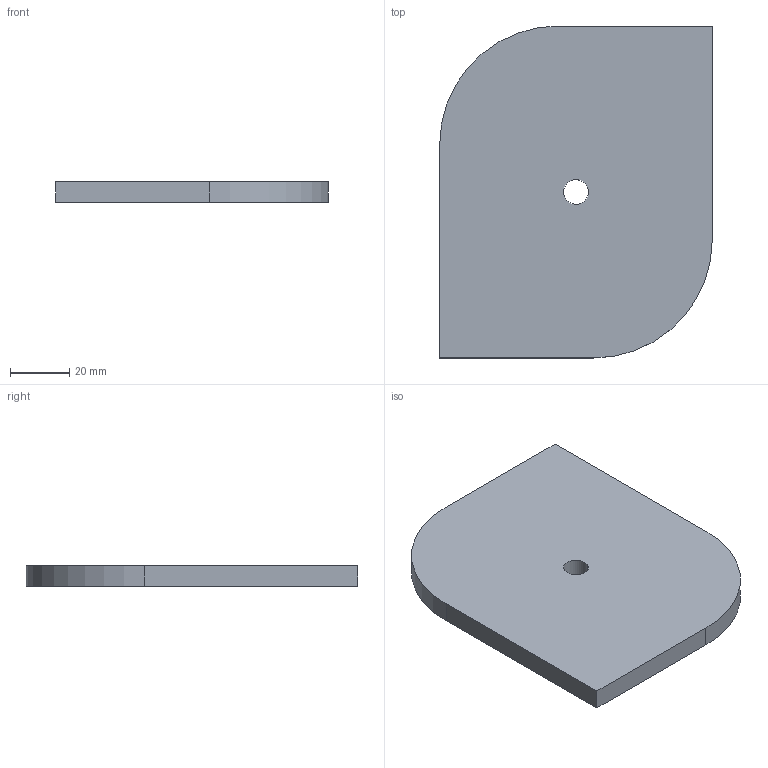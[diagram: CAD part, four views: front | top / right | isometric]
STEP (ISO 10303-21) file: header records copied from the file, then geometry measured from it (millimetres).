
FILE_DESCRIPTION(('CATIA V5 STEP Exchange'),'2;1');
FILE_NAME('C:\_Andres\UNIVERSIDAD\IQS\ASIGNATURAS\DAO\EXF\EXF-15161c\1original\Aranda_Gil_Ej01-plano_v2.stp','2016-03-04T14:59:43+00:00',('none'),('none'),'CATIA Version 5 Release 20 SP 1 (IN-10)','CATIA V5 STEP AP203','none');
FILE_SCHEMA(('CONFIG_CONTROL_DESIGN'));
Length unit declared in the file: millimetre
Products named in the file (1): Aranda_Gil_Ej01-plano_v2
Bounding box: 92 x 112 x 7 mm (x, y, z)
Volume: 66935.2 mm3; surface area: 21924.2 mm2
Topology: 1 solids, 1 shells, 10 faces, 24 edges, 16 vertices
Faces by surface type: plane 6, cylinder 4
Entity records: 333 total; most frequent: CARTESIAN_POINT 51, ORIENTED_EDGE 48, DIRECTION 44, EDGE_CURVE 24, AXIS2_PLACEMENT_3D 19, VECTOR 16, LINE 16, VERTEX_POINT 16
